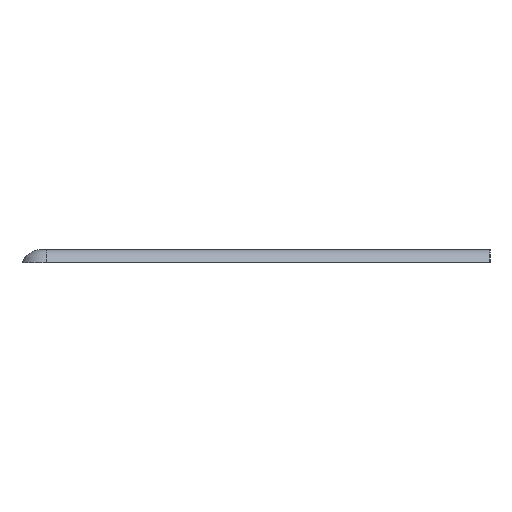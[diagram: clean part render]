
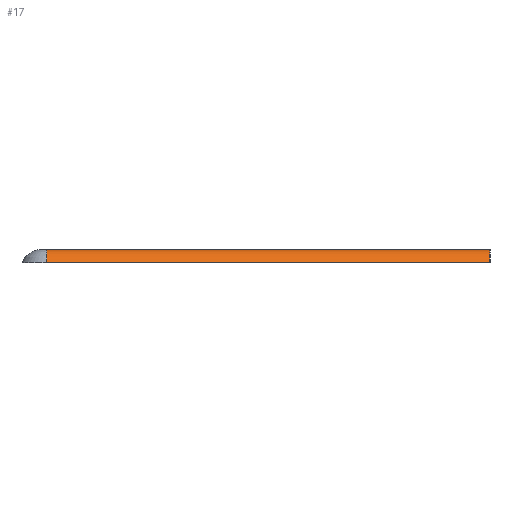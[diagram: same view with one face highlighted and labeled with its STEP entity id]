
A CAD part, left-side view. The second image highlights one B-rep face of the part: STEP entity #17.
In plain terms, the highlighted cylindrical face has radius 4 mm (diameter 8 mm), a partial arc.
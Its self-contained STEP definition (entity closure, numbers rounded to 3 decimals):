
#17 = ADVANCED_FACE('',(#18),#32,.T.);
#18 = FACE_BOUND('',#19,.T.);
#19 = EDGE_LOOP('',(#20,#53,#82,#110));
#20 = ORIENTED_EDGE('',*,*,#21,.F.);
#21 = EDGE_CURVE('',#22,#24,#26,.T.);
#22 = VERTEX_POINT('',#23);
#23 = CARTESIAN_POINT('',(0.292,190.2,49.5));
#24 = VERTEX_POINT('',#25);
#25 = CARTESIAN_POINT('',(0.292,275.,49.5));
#26 = SURFACE_CURVE('',#27,(#31,#42),.PCURVE_S1.);
#27 = LINE('',#28,#29);
#28 = CARTESIAN_POINT('',(0.292,5.,49.5));
#29 = VECTOR('',#30,1.);
#30 = DIRECTION('',(0.,1.,0.));
#31 = PCURVE('',#32,#37);
#32 = CYLINDRICAL_SURFACE('',#33,4.);
#33 = AXIS2_PLACEMENT_3D('',#34,#35,#36);
#34 = CARTESIAN_POINT('',(4.,5.,48.));
#35 = DIRECTION('',(0.,1.,0.));
#36 = DIRECTION('',(-1.,0.,0.));
#37 = DEFINITIONAL_REPRESENTATION('',(#38),#41);
#38 = B_SPLINE_CURVE_WITH_KNOTS('',1,(#39,#40),.UNSPECIFIED.,.F.,.F.,(2,
    2),(0.,270.),.PIECEWISE_BEZIER_KNOTS.);
#39 = CARTESIAN_POINT('',(0.384,0.));
#40 = CARTESIAN_POINT('',(0.384,270.));
#41 = ( GEOMETRIC_REPRESENTATION_CONTEXT(2) 
PARAMETRIC_REPRESENTATION_CONTEXT() REPRESENTATION_CONTEXT('2D SPACE',''
  ) );
#42 = PCURVE('',#43,#48);
#43 = PLANE('',#44);
#44 = AXIS2_PLACEMENT_3D('',#45,#46,#47);
#45 = CARTESIAN_POINT('',(-1.,-1.,49.5));
#46 = DIRECTION('',(0.,0.,1.));
#47 = DIRECTION('',(1.,0.,0.));
#48 = DEFINITIONAL_REPRESENTATION('',(#49),#52);
#49 = B_SPLINE_CURVE_WITH_KNOTS('',1,(#50,#51),.UNSPECIFIED.,.F.,.F.,(2,
    2),(0.,270.),.PIECEWISE_BEZIER_KNOTS.);
#50 = CARTESIAN_POINT('',(1.292,6.));
#51 = CARTESIAN_POINT('',(1.292,276.));
#52 = ( GEOMETRIC_REPRESENTATION_CONTEXT(2) 
PARAMETRIC_REPRESENTATION_CONTEXT() REPRESENTATION_CONTEXT('2D SPACE',''
  ) );
#53 = ORIENTED_EDGE('',*,*,#54,.T.);
#54 = EDGE_CURVE('',#22,#55,#57,.T.);
#55 = VERTEX_POINT('',#56);
#56 = CARTESIAN_POINT('',(4.,190.2,52.));
#57 = SURFACE_CURVE('',#58,(#63,#70),.PCURVE_S1.);
#58 = CIRCLE('',#59,4.);
#59 = AXIS2_PLACEMENT_3D('',#60,#61,#62);
#60 = CARTESIAN_POINT('',(4.,190.2,48.));
#61 = DIRECTION('',(0.,1.,0.));
#62 = DIRECTION('',(-1.,0.,0.));
#63 = PCURVE('',#32,#64);
#64 = DEFINITIONAL_REPRESENTATION('',(#65),#69);
#65 = LINE('',#66,#67);
#66 = CARTESIAN_POINT('',(0.,185.2));
#67 = VECTOR('',#68,1.);
#68 = DIRECTION('',(1.,0.));
#69 = ( GEOMETRIC_REPRESENTATION_CONTEXT(2) 
PARAMETRIC_REPRESENTATION_CONTEXT() REPRESENTATION_CONTEXT('2D SPACE',''
  ) );
#70 = PCURVE('',#71,#76);
#71 = PLANE('',#72);
#72 = AXIS2_PLACEMENT_3D('',#73,#74,#75);
#73 = CARTESIAN_POINT('',(-1.,190.2,49.3));
#74 = DIRECTION('',(0.,1.,0.));
#75 = DIRECTION('',(0.,0.,1.));
#76 = DEFINITIONAL_REPRESENTATION('',(#77),#81);
#77 = CIRCLE('',#78,4.);
#78 = AXIS2_PLACEMENT_2D('',#79,#80);
#79 = CARTESIAN_POINT('',(-1.3,5.));
#80 = DIRECTION('',(0.,-1.));
#81 = ( GEOMETRIC_REPRESENTATION_CONTEXT(2) 
PARAMETRIC_REPRESENTATION_CONTEXT() REPRESENTATION_CONTEXT('2D SPACE',''
  ) );
#82 = ORIENTED_EDGE('',*,*,#83,.T.);
#83 = EDGE_CURVE('',#55,#84,#86,.T.);
#84 = VERTEX_POINT('',#85);
#85 = CARTESIAN_POINT('',(4.,275.,52.));
#86 = SURFACE_CURVE('',#87,(#91,#98),.PCURVE_S1.);
#87 = LINE('',#88,#89);
#88 = CARTESIAN_POINT('',(4.,5.,52.));
#89 = VECTOR('',#90,1.);
#90 = DIRECTION('',(0.,1.,0.));
#91 = PCURVE('',#32,#92);
#92 = DEFINITIONAL_REPRESENTATION('',(#93),#97);
#93 = LINE('',#94,#95);
#94 = CARTESIAN_POINT('',(1.571,0.));
#95 = VECTOR('',#96,1.);
#96 = DIRECTION('',(0.,1.));
#97 = ( GEOMETRIC_REPRESENTATION_CONTEXT(2) 
PARAMETRIC_REPRESENTATION_CONTEXT() REPRESENTATION_CONTEXT('2D SPACE',''
  ) );
#98 = PCURVE('',#99,#104);
#99 = PLANE('',#100);
#100 = AXIS2_PLACEMENT_3D('',#101,#102,#103);
#101 = CARTESIAN_POINT('',(0.,0.,52.));
#102 = DIRECTION('',(0.,0.,1.));
#103 = DIRECTION('',(1.,0.,0.));
#104 = DEFINITIONAL_REPRESENTATION('',(#105),#109);
#105 = LINE('',#106,#107);
#106 = CARTESIAN_POINT('',(4.,5.));
#107 = VECTOR('',#108,1.);
#108 = DIRECTION('',(0.,1.));
#109 = ( GEOMETRIC_REPRESENTATION_CONTEXT(2) 
PARAMETRIC_REPRESENTATION_CONTEXT() REPRESENTATION_CONTEXT('2D SPACE',''
  ) );
#110 = ORIENTED_EDGE('',*,*,#111,.F.);
#111 = EDGE_CURVE('',#24,#84,#112,.T.);
#112 = SURFACE_CURVE('',#113,(#118,#124),.PCURVE_S1.);
#113 = CIRCLE('',#114,4.);
#114 = AXIS2_PLACEMENT_3D('',#115,#116,#117);
#115 = CARTESIAN_POINT('',(4.,275.,48.));
#116 = DIRECTION('',(0.,1.,0.));
#117 = DIRECTION('',(-1.,0.,0.));
#118 = PCURVE('',#32,#119);
#119 = DEFINITIONAL_REPRESENTATION('',(#120),#123);
#120 = B_SPLINE_CURVE_WITH_KNOTS('',1,(#121,#122),.UNSPECIFIED.,.F.,.F.,
  (2,2),(0.,1.571),.PIECEWISE_BEZIER_KNOTS.);
#121 = CARTESIAN_POINT('',(0.,270.));
#122 = CARTESIAN_POINT('',(1.571,270.));
#123 = ( GEOMETRIC_REPRESENTATION_CONTEXT(2) 
PARAMETRIC_REPRESENTATION_CONTEXT() REPRESENTATION_CONTEXT('2D SPACE',''
  ) );
#124 = PCURVE('',#125,#140);
#125 = SURFACE_OF_REVOLUTION('',#126,#137);
#126 = B_SPLINE_CURVE_WITH_KNOTS('',5,(#127,#128,#129,#130,#131,#132,
    #133,#134,#135,#136),.UNSPECIFIED.,.F.,.F.,(6,4,6),(0.384,
    0.978,1.571),.UNSPECIFIED.);
#127 = CARTESIAN_POINT('',(0.292,275.,49.5));
#128 = CARTESIAN_POINT('',(0.47,275.,49.94));
#129 = CARTESIAN_POINT('',(0.713,275.,
    50.353));
#130 = CARTESIAN_POINT('',(1.016,275.,50.728));
#131 = CARTESIAN_POINT('',(1.37,275.,51.051));
#132 = CARTESIAN_POINT('',(2.157,275.,51.582));
#133 = CARTESIAN_POINT('',(2.59,275.,51.789));
#134 = CARTESIAN_POINT('',(3.051,275.,51.93));
#135 = CARTESIAN_POINT('',(3.525,275.,52.));
#136 = CARTESIAN_POINT('',(4.,275.,52.));
#137 = AXIS1_PLACEMENT('',#138,#139);
#138 = CARTESIAN_POINT('',(5.,275.,48.));
#139 = DIRECTION('',(0.,0.,1.));
#140 = DEFINITIONAL_REPRESENTATION('',(#141),#144);
#141 = B_SPLINE_CURVE_WITH_KNOTS('',1,(#142,#143),.UNSPECIFIED.,.F.,.F.,
  (2,2),(0.,1.571),.PIECEWISE_BEZIER_KNOTS.);
#142 = CARTESIAN_POINT('',(0.,0.));
#143 = CARTESIAN_POINT('',(0.,1.571));
#144 = ( GEOMETRIC_REPRESENTATION_CONTEXT(2) 
PARAMETRIC_REPRESENTATION_CONTEXT() REPRESENTATION_CONTEXT('2D SPACE',''
  ) );
